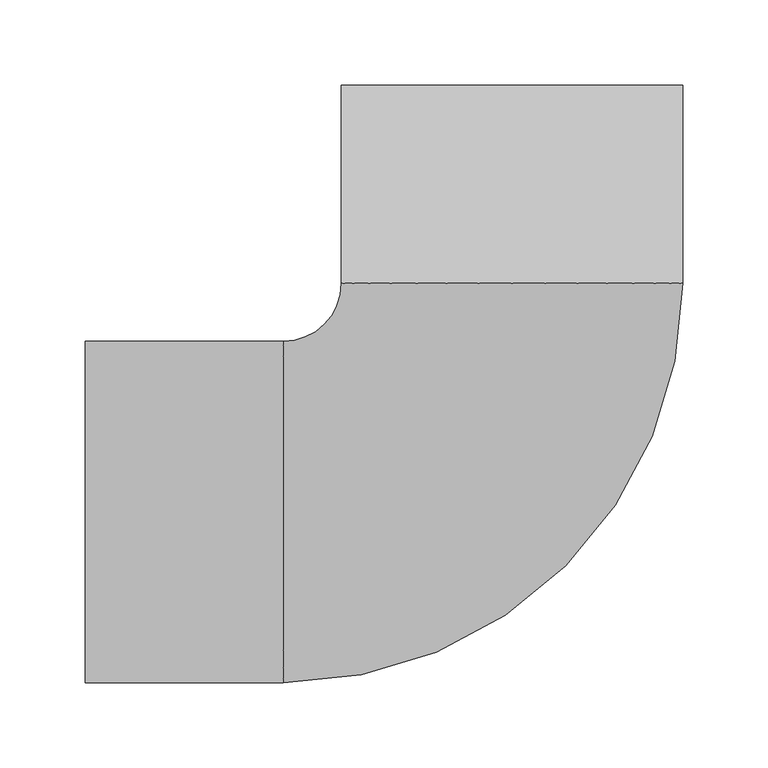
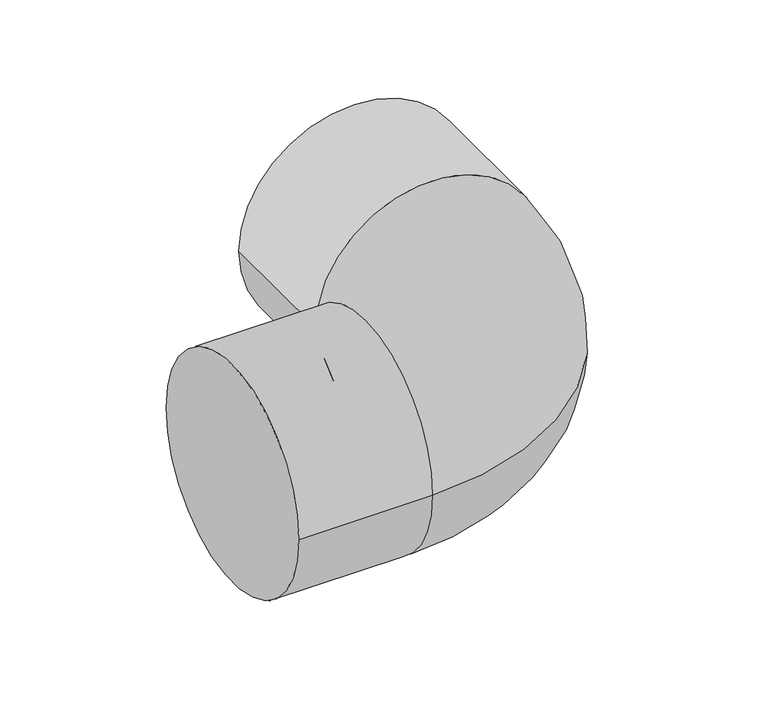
"""IFC4 building model written with IfcOpenShell, lengths in millimetres: pipe fitting geometry, NIRON RED termofusion codo SDR 11 : Estándar."""

import ifcopenshell
import ifcopenshell.guid

model = None  # the IFC model being written
_history = None  # IfcOwnerHistory: only IFC2X3 demands one
_inside = {}  # id of a spatial element -> (the spatial element, [elements in it])
_under = {}  # id of a project, library or spatial element -> (it, [spatial elements below it])
_declared = {}  # id of a project -> (the project, [libraries it declares])
_typed = {}  # id of a type object -> (the type object, [elements of that type])
_made_of = {}  # id of a material, layer set ... -> (it, [elements and type objects made of it])


def new_model(schema):
    """Start an empty IFC model of exactly this schema.

    Asked for "IFC4X3", IfcOpenShell would pick the latest addendum, in which some entities
    have other attributes; the version numbers below select the first issue.
    IFC2X3 requires an IfcOwnerHistory on every rooted entity: one is made here for all.
    """
    global model, _history
    if schema == "IFC4X3":
        model = ifcopenshell.file(schema_version=(4, 3, 0, 0))
    else:
        model = ifcopenshell.file(schema=schema)
    _inside.clear()
    _under.clear()
    _declared.clear()
    _typed.clear()
    _made_of.clear()
    _history = None
    if model.schema == "IFC2X3":
        org = make("IfcOrganization", Name="unknown")
        user = make(
            "IfcPersonAndOrganization",
            ThePerson=make("IfcPerson", FamilyName="unknown"),
            TheOrganization=org,
        )
        app = make(
            "IfcApplication",
            ApplicationDeveloper=org,
            Version="unknown",
            ApplicationFullName="unknown",
            ApplicationIdentifier="unknown",
        )
        _history = make(
            "IfcOwnerHistory",
            OwningUser=user,
            OwningApplication=app,
            ChangeAction="ADDED",
            CreationDate=0,
        )
    return model


def make(cls, **values):
    """One entity of the class cls with the attributes given. An attribute that is None is left unset."""
    return model.create_entity(
        cls, **{name: value for name, value in values.items() if value is not None}
    )


def rooted(cls, **values):
    """An entity with a GlobalId (a new one), such as an element, a storey or a relation."""
    return make(cls, GlobalId=ifcopenshell.guid.new(), OwnerHistory=_history, **values)


def si_unit(unit_type, name, prefix=None):
    """IfcSIUnit, for example si_unit("LENGTHUNIT", "METRE", prefix="MILLI")."""
    return make("IfcSIUnit", UnitType=unit_type, Prefix=prefix, Name=name)


def assignment(units):
    """IfcUnitAssignment: the units of a project."""
    return None if units is None else make("IfcUnitAssignment", Units=units)


def point(xyz):
    """IfcCartesianPoint."""
    return None if xyz is None else make("IfcCartesianPoint", Coordinates=xyz)


def direction(xyz):
    """IfcDirection."""
    return None if xyz is None else make("IfcDirection", DirectionRatios=xyz)


def frame(location, z_axis=None, x_axis=None):
    """IfcAxis2Placement3D, a coordinate frame: its origin and axes. An axis left out is left unset."""
    return make(
        "IfcAxis2Placement3D",
        Location=point(location),
        Axis=direction(z_axis),
        RefDirection=direction(x_axis),
    )


def origin():
    """The frame at (0, 0, 0) with its axes left unset."""
    return frame((0.0, 0.0, 0.0))


def place(relative_to, where):
    """IfcLocalPlacement: puts the frame where relative to a parent placement (None: the world)."""
    return make(
        "IfcLocalPlacement", PlacementRelTo=relative_to, RelativePlacement=where
    )


def context(
    kind, dimensions, precision=None, world=None, true_north=None, identifier=None
):
    """IfcGeometricRepresentationContext, for example the 3D "Model" context."""
    return make(
        "IfcGeometricRepresentationContext",
        ContextIdentifier=identifier,
        ContextType=kind,
        CoordinateSpaceDimension=dimensions,
        Precision=precision,
        WorldCoordinateSystem=world,
        TrueNorth=true_north,
    )


def project(units=None, contexts=None):
    """IfcProject with its units and contexts."""
    return rooted(
        "IfcProject",
        Name="project",
        RepresentationContexts=contexts,
        UnitsInContext=assignment(units),
    )


def spatial(cls, under=None, at=None, **own):
    """A site, building, storey or space (cls), placed at a placement, below another one or the project."""
    s = rooted(cls, ObjectPlacement=at, **own)
    if under is not None:
        _under.setdefault(under.id(), (under, []))[1].append(s)
    return s


def circle_curve(where, radius):
    """IfcCircle in the frame where."""
    return make("IfcCircle", Position=where, Radius=radius)


def ellipse_curve(where, semi_axis1, semi_axis2):
    """IfcEllipse in the frame where."""
    return make(
        "IfcEllipse", Position=where, SemiAxis1=semi_axis1, SemiAxis2=semi_axis2
    )


def trimmed(basis, trim1, trim2, sense, master):
    """IfcTrimmedCurve: the piece of a basis curve between two trims."""
    return make(
        "IfcTrimmedCurve",
        BasisCurve=basis,
        Trim1=trim1,
        Trim2=trim2,
        SenseAgreement=sense,
        MasterRepresentation=master,
    )


def shape(context_of_items, identifier, shape_type, items):
    """IfcShapeRepresentation: the items that make up one representation, for example the "Body"."""
    return make(
        "IfcShapeRepresentation",
        ContextOfItems=context_of_items,
        RepresentationIdentifier=identifier,
        RepresentationType=shape_type,
        Items=items,
    )


def source(mapping_origin, context_of_items, identifier, shape_type, items):
    """IfcRepresentationMap: a shape defined once, which mapped items show again and again."""
    return make(
        "IfcRepresentationMap",
        MappingOrigin=mapping_origin,
        MappedRepresentation=shape(context_of_items, identifier, shape_type, items),
    )


def transform(
    local_origin,
    x_axis=None,
    y_axis=None,
    z_axis=None,
    scale=None,
    scale2=None,
    scale3=None,
    uniform=True,
):
    """IfcCartesianTransformationOperator3D, or its non-uniform kind. x_axis, y_axis, z_axis: its Axis1, 2, 3."""
    if uniform:
        return make(
            "IfcCartesianTransformationOperator3D",
            Axis1=direction(x_axis),
            Axis2=direction(y_axis),
            LocalOrigin=point(local_origin),
            Scale=scale,
            Axis3=direction(z_axis),
        )
    return make(
        "IfcCartesianTransformationOperator3DnonUniform",
        Axis1=direction(x_axis),
        Axis2=direction(y_axis),
        LocalOrigin=point(local_origin),
        Scale=scale,
        Axis3=direction(z_axis),
        Scale2=scale2,
        Scale3=scale3,
    )


def mapped(mapping_source, mapping_target):
    """IfcMappedItem: shows the shape of a source again, moved by a transform."""
    return make(
        "IfcMappedItem", MappingSource=mapping_source, MappingTarget=mapping_target
    )


def made_of(thing, what):
    """Note that an element or type object is made of a material, layer set ...; save() writes the relation."""
    if what is not None:
        _made_of.setdefault(what.id(), (what, []))[1].append(thing)
    return thing


def element(
    cls,
    number,
    at=None,
    inside=None,
    cuts=None,
    type_object=None,
    material=None,
    context=None,
    identifier="Body",
    shape_type=None,
    held_by="IfcProductDefinitionShape",
    body=None,
    shapes=None,
    **own,
):
    """One element of the class cls, such as IfcWall. Its Tag is "e" and its number.

    at: its placement. inside: the storey or other place that contains it. cuts: it is an
    opening in that element (IfcRelVoidsElement). A single representation is given by context,
    identifier, shape_type and body (its items); several are given by shapes. held_by: the class
    of the entity that holds the representations. save() writes the other relations.
    """
    e = rooted(cls, Tag="e%d" % number, ObjectPlacement=at, **own)
    if body is not None:
        shapes = [shape(context, identifier, shape_type, body)]
    if shapes is not None:
        e.Representation = make(held_by, Representations=shapes)
    if inside is not None:
        _inside.setdefault(inside.id(), (inside, []))[1].append(e)
    if cuts is not None:
        rooted(
            "IfcRelVoidsElement", RelatingBuildingElement=cuts, RelatedOpeningElement=e
        )
    if type_object is not None:
        _typed.setdefault(type_object.id(), (type_object, []))[1].append(e)
    return made_of(e, material)


def aggregate(whole, parts):
    """IfcRelAggregates: a whole, such as a stair, and the parts it consists of."""
    return rooted("IfcRelAggregates", RelatingObject=whole, RelatedObjects=parts)


def save(model, path):
    """Write the relations noted so far, then the file.

    IfcRelAggregates (storeys below a building ...), IfcRelContainedInSpatialStructure (elements
    in a storey), IfcRelDefinesByType, IfcRelAssociatesMaterial and IfcRelDeclares: one each for
    every whole, place, type object, material and project.
    """
    for whole, parts in _under.values():
        aggregate(whole, parts)
    for where, things in _inside.values():
        rooted(
            "IfcRelContainedInSpatialStructure",
            RelatedElements=things,
            RelatingStructure=where,
        )
    for kind, things in _typed.values():
        rooted("IfcRelDefinesByType", RelatedObjects=things, RelatingType=kind)
    for what, things in _made_of.values():
        rooted("IfcRelAssociatesMaterial", RelatedObjects=things, RelatingMaterial=what)
    for by, libraries in _declared.values():
        rooted("IfcRelDeclares", RelatingContext=by, RelatedDefinitions=libraries)
    model.write(path)


def plane_surface(at):
    """IfcPlane: the flat surface through the origin of the frame at, square to its z axis."""
    return make("IfcPlane", Position=at)


def cylinder_surface(at, radius):
    """IfcCylindricalSurface: all points at the distance radius from the z axis of the frame at."""
    return make("IfcCylindricalSurface", Position=at, Radius=radius)


def revolved_surface(curve, axis_point, axis_direction):
    """IfcSurfaceOfRevolution: the curve turned about the line through axis_point along axis_direction."""
    return make(
        "IfcSurfaceOfRevolution",
        SweptCurve=make("IfcArbitraryOpenProfileDef", ProfileType="CURVE", Curve=curve),
        AxisPosition=make("IfcAxis1Placement", Location=point(axis_point), Axis=direction(axis_direction)),
    )


def advanced_brep(points, edges, surfaces, faces):
    """IfcAdvancedBrep: a solid bounded by faces that lie on surfaces and meet in shared edges.

    An edge is (start, end): straight between two places in points (the first is 0);
    or (start, end, curve); or (start, end, curve, False) where it runs against its curve.
    A face is (place in surfaces, loops), or (place, loops, False) where it looks against
    its surface's normal. A loop lists edges by number (the first is 1), with a minus sign
    where the edge is run from its end to its start. The first loop is the outer one.
    """
    corners = [point(p) for p in points]
    vertices = [make("IfcVertexPoint", VertexGeometry=c) for c in corners]
    made = []
    for start, end, *more in edges:
        made.append(
            make(
                "IfcEdgeCurve",
                EdgeStart=vertices[start],
                EdgeEnd=vertices[end],
                EdgeGeometry=more[0] if more else make("IfcPolyline", Points=[corners[start], corners[end]]),
                SameSense=more[1] if len(more) > 1 else True,
            )
        )
    hull = []
    for where, loops, *sense in faces:
        bounds = []
        for j, loop in enumerate(loops):
            ring = [make("IfcOrientedEdge", EdgeElement=made[abs(k) - 1], Orientation=k > 0) for k in loop]
            bounds.append(
                make(
                    "IfcFaceOuterBound" if j == 0 else "IfcFaceBound",
                    Bound=make("IfcEdgeLoop", EdgeList=ring),
                    Orientation=True,
                )
            )
        hull.append(make("IfcAdvancedFace", Bounds=bounds, FaceSurface=surfaces[where], SameSense=sense[0] if sense else True))
    return make("IfcAdvancedBrep", Outer=make("IfcClosedShell", CfsFaces=hull))


def pipe_fitting_d586367e(model_context):
    return source(origin(), model_context, "Body", "AdvancedBrep", [
        advanced_brep(
        [(-250.0, -100.0, 0.0), (-250.0, 100.0, 0.0), (-134.0, -100.0, 0.0), (-134.0, 100.0, 0.0), (-100.0, 134.0, 0.0), (100.0, 134.0, 0.0), (0.0, 134.0, 100.0), (0.0, 134.0, -100.0), (100.0, 250.0, 0.0), (-100.0, 250.0, 0.0)],
        [
            (0, 1, circle_curve(frame((-250.0, 0.0, 0.0), z_axis=(-1.0, 0.0, 0.0), x_axis=(0.0, 1.0, 0.0)), 100.0)),
            (1, 0, circle_curve(frame((-250.0, 0.0, 0.0), z_axis=(-1.0, 0.0, 0.0), x_axis=(0.0, 1.0, 0.0)), 100.0)),
            (0, 2),
            (2, 3, circle_curve(frame((-134.0, 0.0, 0.0), z_axis=(-1.0, 0.0, 0.0), x_axis=(0.0, 1.0, 0.0)), 100.0)),
            (3, 1),
            (3, 2, circle_curve(frame((-134.0, 0.0, 0.0), z_axis=(-1.0, 0.0, 0.0), x_axis=(0.0, 1.0, 0.0)), 100.0)),
            (4, 3, circle_curve(frame((-134.0, 134.0, 0.0), z_axis=(0.0, 0.0, -1.0), x_axis=(0.0, -1.0, 0.0)), 34.0)),
            (2, 5, circle_curve(frame((-134.0, 134.0, 0.0), z_axis=(0.0, 0.0, 1.0), x_axis=(0.0, -1.0, 0.0)), 234.0)),
            (5, 6, circle_curve(frame((0.0, 134.0, 0.0), z_axis=(0.0, -1.0, 0.0), x_axis=(-1.0, 0.0, 0.0)), 100.0)),
            (6, 4, circle_curve(frame((0.0, 134.0, 0.0), z_axis=(0.0, -1.0, 0.0), x_axis=(-1.0, 0.0, 0.0)), 100.0)),
            (4, 7, circle_curve(frame((0.0, 134.0, 0.0), z_axis=(0.0, -1.0, 0.0), x_axis=(-1.0, 0.0, 0.0)), 100.0)),
            (7, 5, circle_curve(frame((0.0, 134.0, 0.0), z_axis=(0.0, -1.0, 0.0), x_axis=(-1.0, 0.0, 0.0)), 100.0)),
            (8, 9, circle_curve(frame((0.0, 250.0, 0.0), z_axis=(0.0, 1.0, 0.0), x_axis=(-1.0, 0.0, 0.0)), 100.0)),
            (9, 8, circle_curve(frame((0.0, 250.0, 0.0), z_axis=(0.0, 1.0, 0.0), x_axis=(-1.0, 0.0, 0.0)), 100.0)),
            (9, 4),
            (5, 8),
        ],
        [
            plane_surface(frame((-250.0, 0.0, 0.0), z_axis=(-1.0, 0.0, 0.0), x_axis=(0.0, 0.0, 1.0))),
            cylinder_surface(frame((-250.0, 0.0, 0.0), z_axis=(-1.0, 0.0, 0.0), x_axis=(0.0, 1.0, 0.0)), 100.0),
            revolved_surface(trimmed(ellipse_curve(frame((-134.0, 0.0, 0.0), z_axis=(-1.0, 0.0, 0.0), x_axis=(0.0, 1.0, 0.0)), 100.0, 100.0), [point((-134.0, -100.0, 0.0))], [point((-134.0, 100.0, 0.0))], True, "CARTESIAN"), (-134.0, 134.0, 0.0), (0.0, 0.0, 1.0)),
            revolved_surface(trimmed(ellipse_curve(frame((-134.0, 0.0, 0.0), z_axis=(-1.0, 0.0, 0.0), x_axis=(0.0, 1.0, 0.0)), 100.0, 100.0), [point((-134.0, 100.0, 0.0))], [point((-134.0, -100.0, 0.0))], True, "CARTESIAN"), (-134.0, 134.0, 0.0), (0.0, 0.0, 1.0)),
            plane_surface(frame((0.0, 250.0, 0.0), z_axis=(0.0, 1.0, 0.0), x_axis=(0.0, 0.0, 1.0))),
            cylinder_surface(frame((0.0, 134.0, 0.0), z_axis=(0.0, -1.0, 0.0), x_axis=(-1.0, 0.0, 0.0)), 100.0),
        ],
        [
            (0, [[1, 2]]),
            (1, [[-1, 3, 4, 5]]),
            (1, [[-2, -5, 6, -3]]),
            (2, [[7, -4, 8, 9, 10]]),
            (3, [[-7, 11, 12, -8, -6]]),
            (4, [[13, 14]]),
            (5, [[-14, 15, -10, -9, 16]]),
            (5, [[-13, -16, -12, -11, -15]]),
        ],
    ),
    ])


if __name__ == "__main__":
    model = new_model("IFC4")
    model_context = context("Model", 3, world=origin())
    ifc_project = project(units=[si_unit("LENGTHUNIT", "METRE", prefix="MILLI")], contexts=[model_context])
    site = spatial("IfcSite", under=ifc_project)
    building = spatial("IfcBuilding", under=site)
    placement = place(None, origin())
    pipe_fitting_shape = pipe_fitting_d586367e(model_context)
    element("IfcPipeFitting", 1, ObjectType="NIRON RED termofusion codo SDR 11 : Estándar", at=placement, inside=building, context=model_context, shape_type="MappedRepresentation", body=[
        mapped(pipe_fitting_shape, transform((0.0, 0.0, 0.0), x_axis=(1.0, 0.0, 0.0), y_axis=(0.0, 1.0, 0.0), z_axis=(0.0, 0.0, 1.0))),
    ])
    save(model, "model.ifc")
